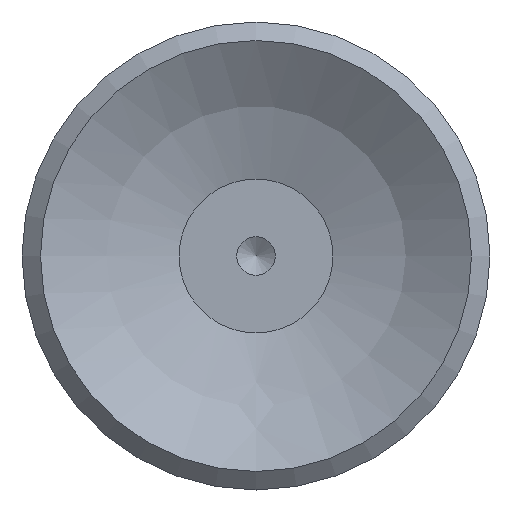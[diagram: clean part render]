
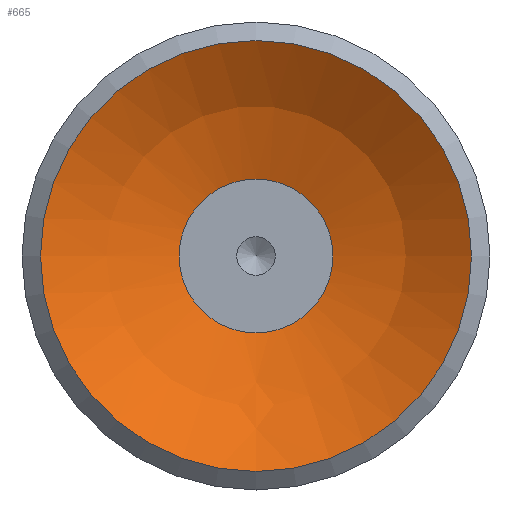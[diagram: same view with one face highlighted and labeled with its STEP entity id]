
A CAD part, front view. The second image highlights one B-rep face of the part: STEP entity #665.
In plain terms, the highlighted spherical face has radius 11.5 mm.
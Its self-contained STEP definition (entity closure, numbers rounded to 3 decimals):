
#665=ADVANCED_FACE('',(#1106,#1107),#1108,.F.);
#1106=FACE_OUTER_BOUND('',#1629,.T.);
#1107=FACE_OUTER_BOUND('',#1630,.T.);
#1108=SPHERICAL_SURFACE('',#1631,11.5);
#1629=EDGE_LOOP('',(#2867));
#1630=EDGE_LOOP('',(#2868));
#1631=AXIS2_PLACEMENT_3D('',#2869,#2870,#2871);
#2867=ORIENTED_EDGE('',*,*,#3600,.T.);
#2868=ORIENTED_EDGE('',*,*,#3540,.F.);
#2869=CARTESIAN_POINT('',(0.001,9.494,-22.735));
#2870=DIRECTION('',(0.0,0.,-1.0));
#2871=DIRECTION('',(1.0,0.0,0.0));
#3540=EDGE_CURVE('',#4174,#4174,#4175,.T.);
#3600=EDGE_CURVE('',#4269,#4269,#4270,.T.);
#4174=VERTEX_POINT('',#5903);
#4175=CIRCLE('',#5904,2.5);
#4269=VERTEX_POINT('',#5998);
#4270=CIRCLE('',#5999,7.0);
#5903=CARTESIAN_POINT('',(0.001,11.994,-11.51));
#5904=AXIS2_PLACEMENT_3D('',#6583,#6584,#6585);
#5998=CARTESIAN_POINT('',(0.001,16.494,-13.611));
#5999=AXIS2_PLACEMENT_3D('',#6763,#6764,#6765);
#6583=CARTESIAN_POINT('',(0.001,9.494,-11.51));
#6584=DIRECTION('',(0.0,0.,-1.0));
#6585=DIRECTION('',(0.0,1.0,0.));
#6763=CARTESIAN_POINT('',(0.001,9.494,-13.611));
#6764=DIRECTION('',(0.0,0.,-1.0));
#6765=DIRECTION('',(0.0,1.0,0.));
